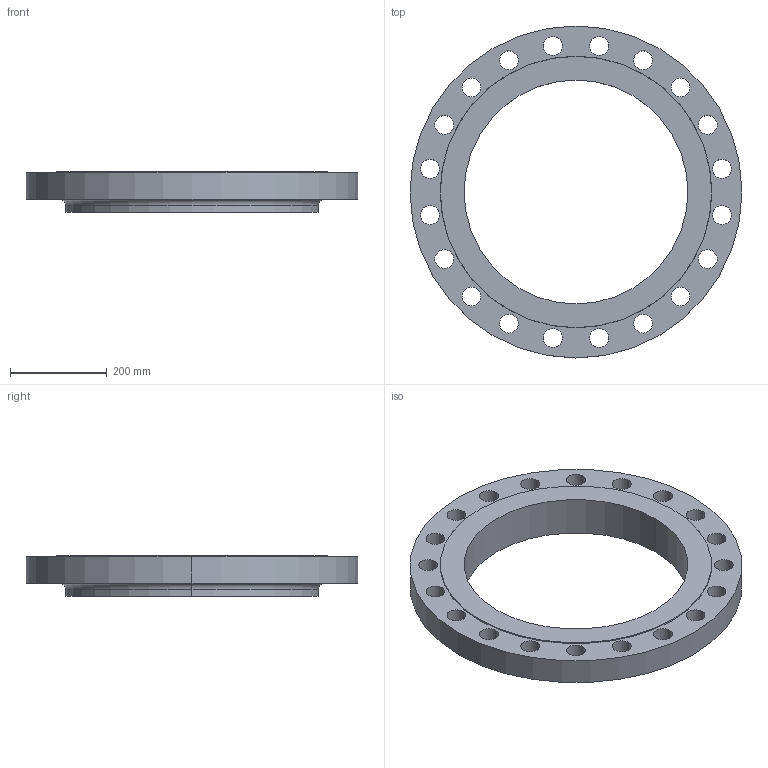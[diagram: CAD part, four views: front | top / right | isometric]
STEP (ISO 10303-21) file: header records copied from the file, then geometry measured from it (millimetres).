
FILE_DESCRIPTION (( 'STEP AP214' ), '1' );
FILE_NAME ('PN40 DN450 Type 12 - Type B Face.STEP', '2018-12-29T02:39:40', ( '' ), ( '' ), 'SwSTEP 2.0', 'SolidWorks 2019', '' );
FILE_SCHEMA (( 'AUTOMOTIVE_DESIGN' ));
Length unit declared in the file: millimetre
Products named in the file (1): PN40 DN450 Type 12 - Type B Face
Bounding box: 685 x 685 x 84 mm (x, y, z)
Volume: 11196027.3 mm3; surface area: 767898.7 mm2
Topology: 1 solids, 1 shells, 54 faces, 148 edges, 98 vertices
Faces by surface type: cylinder 46, plane 4, torus 2, cone 2
Entity records: 1894 total; most frequent: DIRECTION 358, CARTESIAN_POINT 301, ORIENTED_EDGE 296, AXIS2_PLACEMENT_3D 155, EDGE_CURVE 148, CIRCLE 100, EDGE_LOOP 98, VERTEX_POINT 98
